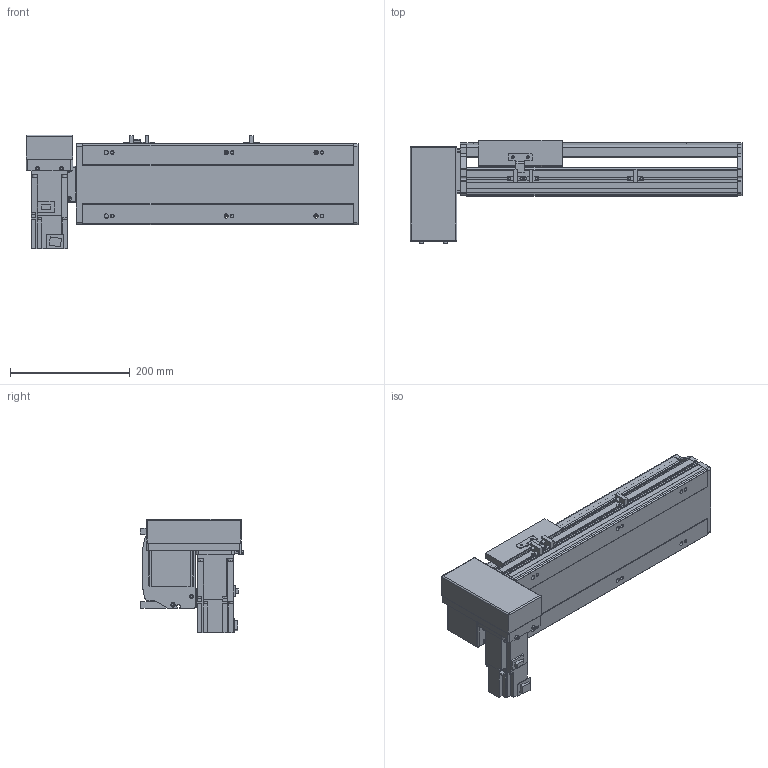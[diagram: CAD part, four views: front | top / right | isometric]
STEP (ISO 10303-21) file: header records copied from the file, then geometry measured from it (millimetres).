
FILE_DESCRIPTION(/* description */ ('STEP AP214'),/* implementation_level */ '2;1');
FILE_NAME(/* name */ 'PBS140S-P40-S200-RD-T40-C1-N(0)',/* time_stamp */ '2022-06-09T02:41:46+02:00',/* author */ ('License CC BY-ND 4.0'),/* organization */ ('CADENAS'),/* preprocessor_version */ 'ST-DEVELOPER v18.102',/* originating_system */ 'PARTsolutions',/* authorisation */ ' ');
FILE_SCHEMA (('AUTOMOTIVE_DESIGN {1 0 10303 214 3 1 1}'));
Length unit declared in the file: millimetre
Products named in the file (7): PBS140S-P40-S200-RD-T40-C1-N(0); PBS140S_sensor; PBS140S_plant; PBS140S_sliser; T40-p1; PBS140ST-RD_motors; PBS140S-S200()_body
Assembly tree (8 placements, depth 2):
  PBS140S-P40-S200-RD-T40-C1-N(0)
    PBS140S_sensor  x3
    PBS140S_plant
    PBS140S_sliser
    T40-p1
    PBS140ST-RD_motors
    PBS140S-S200()_body
Bounding box: 554 x 172.5 x 189.7 mm (x, y, z)
Volume: 3396996.3 mm3; surface area: 622757.5 mm2
Topology: 8 solids, 8 shells, 1019 faces, 2711 edges, 1775 vertices
Faces by surface type: plane 672, cylinder 305, cone 32, sphere 8, torus 2
Full cylindrical faces by diameter (mm): 3.242 x4, 4 x2, 4.134 x4, 4.4 x8, 4.5 x2, 4.8 x4, 4.917 x14, 5.5 x7, 6 x2, 7 x8, 7.5 x8, 8 x12, 8.5 x4, 10.5 x6, 14 x1, 30 x2, 50 x2
Entity records: 29206 total; most frequent: CARTESIAN_POINT 5256, DIRECTION 4998, ORIENTED_EDGE 4762, EDGE_CURVE 2381, AXIS2_PLACEMENT_3D 1709, VERTEX_POINT 1633, LINE 1580, VECTOR 1580
